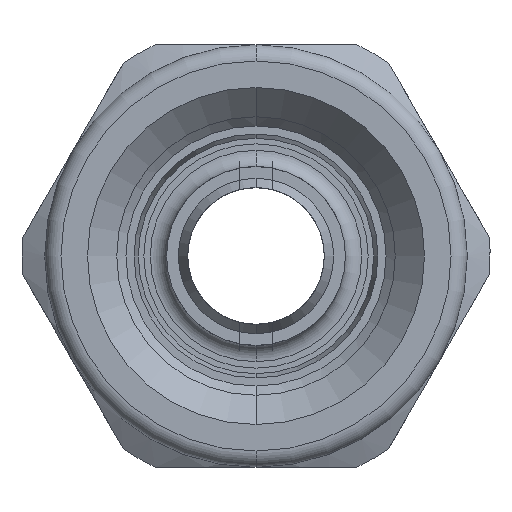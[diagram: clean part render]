
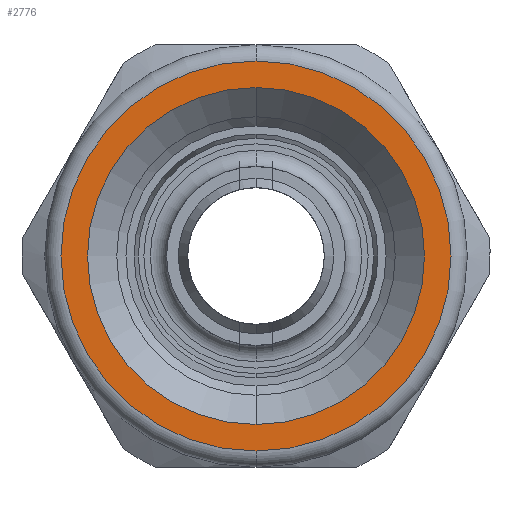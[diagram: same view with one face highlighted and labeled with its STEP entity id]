
A CAD part, front view. The second image highlights one B-rep face of the part: STEP entity #2776.
In plain terms, the highlighted planar face has unit normal (0, -1, 0).
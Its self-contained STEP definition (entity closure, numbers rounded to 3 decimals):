
#113 = ORIENTED_EDGE ( 'NONE', *, *, #2201, .T. ) ;
#175 = DIRECTION ( 'NONE',  ( 0., -1., 0. ) ) ;
#205 = FACE_OUTER_BOUND ( 'NONE', #2668, .T. ) ;
#266 = CIRCLE ( 'NONE', #713, 6. ) ;
#347 = CIRCLE ( 'NONE', #3271, 5.183 ) ;
#418 = VERTEX_POINT ( 'NONE', #1672 ) ;
#543 = DIRECTION ( 'NONE',  ( 0., 0., -1. ) ) ;
#713 = AXIS2_PLACEMENT_3D ( 'NONE', #3116, #175, #543 ) ;
#905 = VERTEX_POINT ( 'NONE', #3113 ) ;
#962 = EDGE_CURVE ( 'NONE', #418, #2456, #1281, .T. ) ;
#1146 = ORIENTED_EDGE ( 'NONE', *, *, #1399, .T. ) ;
#1174 = VERTEX_POINT ( 'NONE', #1976 ) ;
#1281 = CIRCLE ( 'NONE', #1876, 6. ) ;
#1399 = EDGE_CURVE ( 'NONE', #905, #1174, #3086, .T. ) ;
#1597 = FACE_BOUND ( 'NONE', #2784, .T. ) ;
#1672 = CARTESIAN_POINT ( 'NONE',  ( 0., 0., -6. ) ) ;
#1825 = DIRECTION ( 'NONE',  ( 0., 0., -1. ) ) ;
#1857 = DIRECTION ( 'NONE',  ( 0., 0., -1. ) ) ;
#1867 = DIRECTION ( 'NONE',  ( 0., 1., 0. ) ) ;
#1876 = AXIS2_PLACEMENT_3D ( 'NONE', #3162, #3258, #3238 ) ;
#1893 = CARTESIAN_POINT ( 'NONE',  ( 0., 0., 0. ) ) ;
#1976 = CARTESIAN_POINT ( 'NONE',  ( 0., 0., 5.183 ) ) ;
#2067 = PLANE ( 'NONE',  #2860 ) ;
#2144 = EDGE_CURVE ( 'NONE', #1174, #905, #347, .T. ) ;
#2201 = EDGE_CURVE ( 'NONE', #2456, #418, #266, .T. ) ;
#2222 = CARTESIAN_POINT ( 'NONE',  ( 0., 0., 0. ) ) ;
#2242 = DIRECTION ( 'NONE',  ( 0., -1., 0. ) ) ;
#2451 = CARTESIAN_POINT ( 'NONE',  ( 0., 0., 6. ) ) ;
#2456 = VERTEX_POINT ( 'NONE', #2451 ) ;
#2668 = EDGE_LOOP ( 'NONE', ( #2742, #113 ) ) ;
#2742 = ORIENTED_EDGE ( 'NONE', *, *, #962, .T. ) ;
#2776 = ADVANCED_FACE ( 'NONE', ( #1597, #205 ), #2067, .T. ) ;
#2784 = EDGE_LOOP ( 'NONE', ( #1146, #2981 ) ) ;
#2860 = AXIS2_PLACEMENT_3D ( 'NONE', #2222, #2242, #1825 ) ;
#2981 = ORIENTED_EDGE ( 'NONE', *, *, #2144, .T. ) ;
#3086 = CIRCLE ( 'NONE', #3133, 5.183 ) ;
#3113 = CARTESIAN_POINT ( 'NONE',  ( 0., 0., -5.183 ) ) ;
#3116 = CARTESIAN_POINT ( 'NONE',  ( 0., 0., 0. ) ) ;
#3122 = CARTESIAN_POINT ( 'NONE',  ( 0., 0., 0. ) ) ;
#3133 = AXIS2_PLACEMENT_3D ( 'NONE', #1893, #1867, #1857 ) ;
#3162 = CARTESIAN_POINT ( 'NONE',  ( 0., 0., 0. ) ) ;
#3238 = DIRECTION ( 'NONE',  ( 0., 0., -1. ) ) ;
#3258 = DIRECTION ( 'NONE',  ( 0., -1., 0. ) ) ;
#3271 = AXIS2_PLACEMENT_3D ( 'NONE', #3122, #3364, #3375 ) ;
#3364 = DIRECTION ( 'NONE',  ( 0., 1., 0. ) ) ;
#3375 = DIRECTION ( 'NONE',  ( 0., 0., -1. ) ) ;
